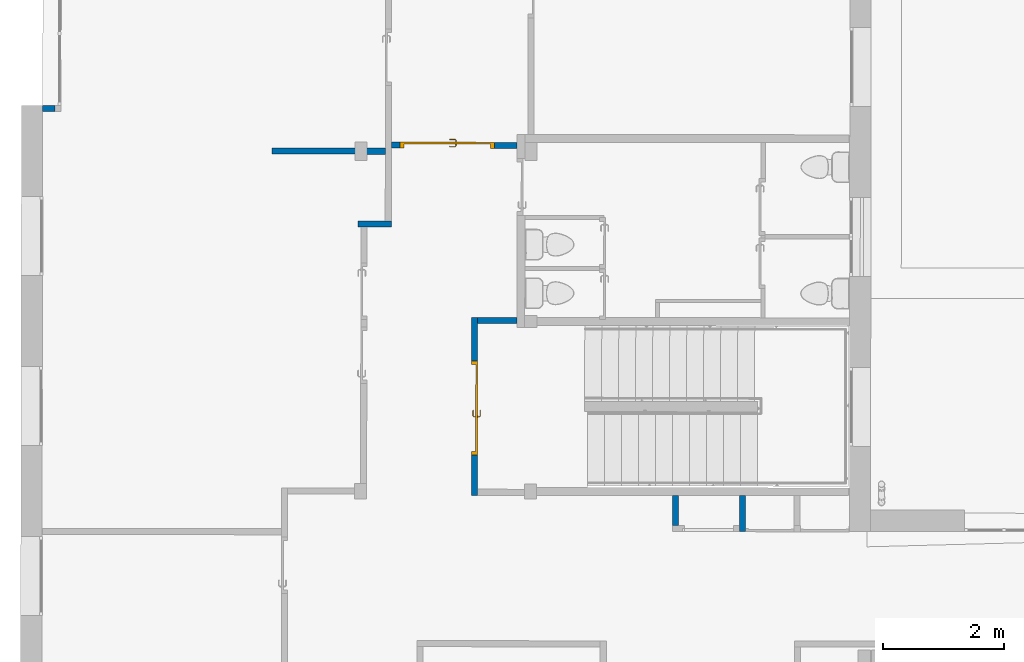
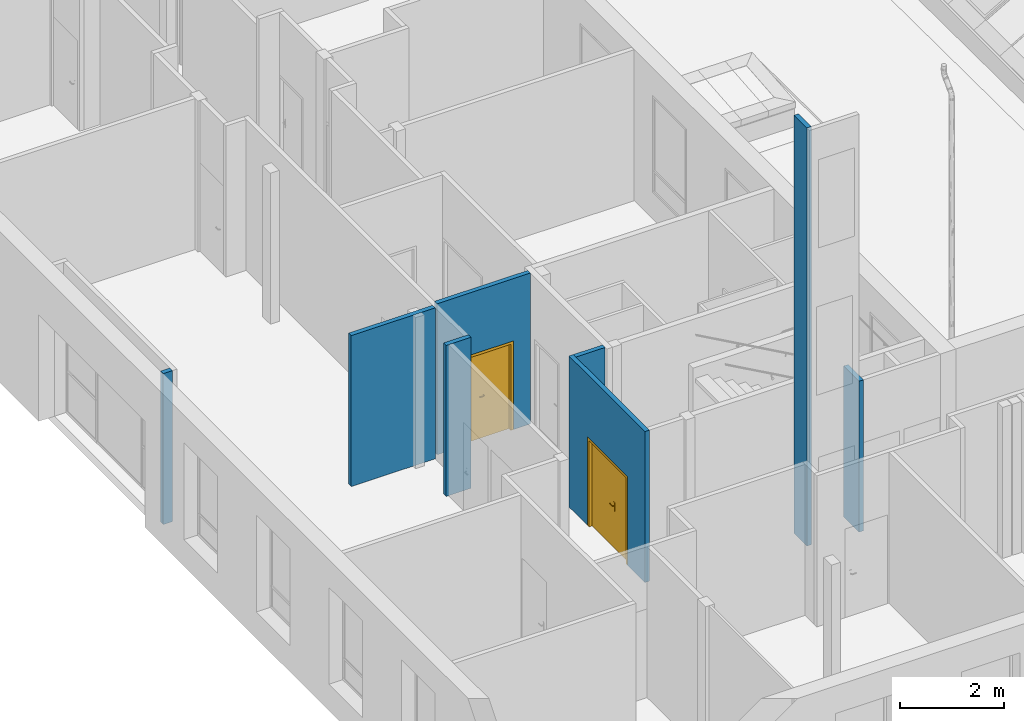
# One storey, part 50 of 101: 8 walls, 2 doors, 4 openings.
"""IFC2X3 building model written with IfcOpenShell, lengths in metres."""

from ifc_helpers import new_model, entity, si_unit, converted_unit, derived_unit, direction, frame, frame_2d, origin, place, context, subcontext, project, spatial, rectangle, extrude, faceted_brep, source, transform, mapped, material, material_list, layer, layer_set, layer_usage, type_object, type_shapes, element, fill, save


model = new_model("IFC2X3")

# Units and contexts
model_context = context("Model", 3, precision=1e-05, world=origin(), true_north=direction((6.123233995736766e-17, 1.0)))
body_context = subcontext(model_context, "Body", "Model", "MODEL_VIEW")
ifc_project = project(units=[si_unit("LENGTHUNIT", "METRE"), si_unit("AREAUNIT", "SQUARE_METRE"), converted_unit("PLANEANGLEUNIT", "DEGREE", entity("IfcPlaneAngleMeasure", 0.017453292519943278), si_unit("PLANEANGLEUNIT", "RADIAN"), dimensions=[0, 0, 0, 0, 0, 0, 0]), derived_unit("THERMALTRANSMITTANCEUNIT", [(si_unit("MASSUNIT", "GRAM", prefix="KILO"), 1), (si_unit("THERMODYNAMICTEMPERATUREUNIT", "KELVIN"), -1), (si_unit("TIMEUNIT", "SECOND"), -3)])], contexts=[model_context])

# Site, building, storey
site_placement = place(None, frame((1253.6752467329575, 2072.143113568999, 91.49999999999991), z_axis=(0.0, 0.0, 1.0), x_axis=(0.7237211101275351, 0.6900925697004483, 0.0)))
site = spatial("IfcSite", under=ifc_project, at=site_placement, Name="Surface", CompositionType="ELEMENT")
building_placement = place(site_placement, origin())
building = spatial("IfcBuilding", under=site, at=building_placement, CompositionType="ELEMENT")
storey_placement = place(building_placement, origin())
storey = spatial("IfcBuildingStorey", under=building, at=storey_placement, Name="0- Rdc", CompositionType="ELEMENT", Elevation=-5.764692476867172e-13)

# Wall, opening, door
ifc_material_1 = material(Name="OMD_Béton blanc")
ifc_layer_1 = layer(ifc_material_1, 0.1)
ifc_layer_set_1 = layer_set([ifc_layer_1], Name="Mur de base:MUR 10")
ifc_layer_usage_1 = layer_usage(ifc_layer_set_1, "AXIS2", "NEGATIVE", 0.05)
wall_type_1 = type_object("IfcWallType", Name="Mur de base:MUR 10", PredefinedType="STANDARD", material=ifc_layer_set_1)
wall_1_placement = place(storey_placement, frame((155.52189006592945, 5.777319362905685, 0.0), z_axis=(0.0, 0.0, 1.0), x_axis=(0.690983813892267, 0.7228702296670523, 0.0)))
wall_1 = element("IfcWallStandardCase", 1, at=wall_1_placement, inside=storey, type_object=wall_type_1, material=ifc_layer_usage_1, Name="Mur de base:MUR 10", ObjectType="Mur de base:MUR 10", context=body_context, shape_type="SweptSolid", body=[
    extrude(rectangle(XDim=2.929999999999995, YDim=0.10000000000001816, at=frame_2d((1.4649999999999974, 1.6653345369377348e-16), x_axis=(-1.0, 0.0))), origin(), (0.0, 0.0, 1.0), 3.5499999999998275),
])
opening_1_placement = place(wall_1_placement, frame((2.2150000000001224, 0.04999999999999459, 0.0)))
opening_1 = element("IfcOpeningElement", 2, at=opening_1_placement, cuts=wall_1, Name="OMD_Porte 2V tunnel:140x204:1", ObjectType="Opening", context=body_context, shape_type="SweptSolid", body=[
    extrude(rectangle(XDim=2.085, YDim=1.5499999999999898, at=frame_2d((1.0425, 0.7749999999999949), x_axis=(1.0, 0.0))), frame((0.0, 0.0, 0.0), z_axis=(0.0, -1.0, 0.0), x_axis=(0.0, 0.0, 1.0)), (0.0, 0.0, 1.0), 0.1),
])
ifc_material_2 = material(Name="<Unnamed>")
ifc_material_3 = material(Name="Porte - Poignée")
ifc_material_4 = material(Name="OMD_Bois")
ifc_material_list = material_list([ifc_material_2, ifc_material_3, ifc_material_4])
door_style = type_object("IfcDoorStyle", Name="OMD_Porte 2V tunnel:140x204", ConstructionType="NOTDEFINED", OperationType="NOTDEFINED", ParameterTakesPrecedence=False, Sizeable=False, material=ifc_material_list)
shared_shape = source(origin(), body_context, "Body", "Brep", [
    faceted_brep([(0.1450000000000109, 0.030000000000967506, 0.0), (0.6750000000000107, 0.030000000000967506, 0.0), (0.6750000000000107, 0.0, 0.0), (0.1450000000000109, 0.0, 0.0), (0.1450000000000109, 0.030000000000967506, 2.04), (0.1450000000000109, 0.0, 2.04), (0.6750000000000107, 0.0, 2.04), (0.6750000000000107, 0.030000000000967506, 2.04)], [[[0, 1, 2, 3]], [[4, 0, 3, 5]], [[5, 3, 2, 6]], [[6, 2, 1, 7]], [[7, 1, 0, 4]], [[4, 5, 6, 7]]]),
    faceted_brep([(0.7279747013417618, 0.035000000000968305, 1.0077804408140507), (0.7239999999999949, 0.035000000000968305, 1.0069999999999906), (0.7239999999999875, 0.035000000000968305, 0.9929999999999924), (0.7279747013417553, 0.035000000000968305, 0.9922195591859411), (0.7320252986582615, 0.035000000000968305, 0.9922195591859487), (0.7360000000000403, 0.035000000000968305, 0.9930000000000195), (0.7360000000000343, 0.035000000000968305, 1.0069999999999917), (0.7320252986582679, 0.035000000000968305, 1.007780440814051), (0.7360000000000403, 0.057485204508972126, 0.9930000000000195), (0.7360000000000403, 0.057485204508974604, 1.0069999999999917), (0.7320252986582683, 0.05913157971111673, 1.007780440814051), (0.7458389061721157, 0.07294518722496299, 1.007780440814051), (0.7441610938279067, 0.07699578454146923, 1.0077804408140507), (0.7279747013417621, 0.06080939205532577, 1.0077804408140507), (0.8356847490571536, 0.06646731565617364, 1.0077804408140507), (0.8385489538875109, 0.06933152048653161, 1.0077804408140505), (0.8308846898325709, 0.07699578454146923, 1.0077804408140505), (0.8292068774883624, 0.07294518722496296, 1.0077804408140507), (0.7239999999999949, 0.06245576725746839, 1.0069999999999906), (0.7239999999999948, 0.06245576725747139, 0.9929999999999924), (0.7279747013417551, 0.060809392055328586, 0.9922195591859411), (0.7441610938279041, 0.07699578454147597, 0.9922195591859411), (0.7458389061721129, 0.07294518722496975, 0.9922195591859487), (0.7320252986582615, 0.05913157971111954, 0.9922195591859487), (0.8385489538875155, 0.06933152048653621, 0.9922195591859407), (0.8356847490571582, 0.06646731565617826, 0.9922195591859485), (0.8292068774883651, 0.07294518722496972, 0.9922195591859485), (0.8308846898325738, 0.07699578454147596, 0.9922195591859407), (0.74748528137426, 0.06897048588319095, 0.9930000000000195), (0.7474852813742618, 0.06897048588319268, 1.0069999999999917), (0.7425147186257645, 0.08097048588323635, 1.0069999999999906), (0.7425147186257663, 0.08097048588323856, 0.9929999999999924), (0.787522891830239, 0.06897048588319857, 0.9930000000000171), (0.8275605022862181, 0.06897048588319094, 0.9930000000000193), (0.8275605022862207, 0.06897048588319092, 1.0069999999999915), (0.787522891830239, 0.06897048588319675, 1.0069999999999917), (0.7875228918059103, 0.07512492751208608, 1.0078781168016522), (0.8325310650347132, 0.0809704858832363, 1.0069999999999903), (0.7926005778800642, 0.08097048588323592, 1.0069999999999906), (0.8325310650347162, 0.08097048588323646, 0.9929999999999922), (0.7824452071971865, 0.08097048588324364, 0.9929999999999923), (0.7875228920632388, 0.07512492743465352, 0.9921218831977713), (0.8328742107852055, 0.06365677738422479, 0.9930000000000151), (0.8413594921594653, 0.0721420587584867, 0.99299999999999), (0.8413594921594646, 0.07214205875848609, 1.0069999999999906), (0.8328742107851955, 0.06365677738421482, 1.0069999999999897)], [[[0, 1, 2, 3, 4, 5, 6, 7]], [[6, 5, 8, 9]], [[9, 10, 7, 6]], [[10, 11, 12, 13, 0, 7]], [[14, 15, 16, 17]], [[13, 18, 1, 0]], [[2, 1, 18, 19]], [[19, 20, 3, 2]], [[20, 21, 22, 23, 4, 3]], [[24, 25, 26, 27]], [[23, 8, 5, 4]], [[9, 8, 28, 29]], [[29, 11, 10, 9]], [[12, 30, 18, 13]], [[19, 18, 30, 31]], [[31, 21, 20, 19]], [[22, 28, 8, 23]], [[29, 28, 32, 33, 34, 35]], [[11, 35, 36]], [[16, 37, 38]], [[30, 12, 38]], [[38, 12, 36]], [[36, 35, 17]], [[17, 16, 36]], [[35, 11, 29]], [[34, 17, 35]], [[11, 36, 12]], [[38, 36, 16]], [[31, 30, 38, 37, 39, 40]], [[40, 41, 21]], [[41, 40, 27]], [[21, 31, 40]], [[39, 27, 40]], [[41, 32, 22]], [[22, 21, 41]], [[26, 32, 41]], [[28, 22, 32]], [[32, 26, 33]], [[26, 41, 27]], [[42, 25, 24, 43, 44, 15, 14, 45]], [[34, 33, 42, 45]], [[45, 14, 17, 34]], [[15, 44, 37, 16]], [[39, 37, 44, 43]], [[43, 24, 27, 39]], [[25, 42, 33, 26]]]),
    faceted_brep([(0.7279747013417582, -0.004999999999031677, 1.0077804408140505), (0.7320252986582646, -0.004999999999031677, 1.007780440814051), (0.7360000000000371, -0.004999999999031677, 1.006999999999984), (0.7360000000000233, -0.004999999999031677, 0.9930000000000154), (0.7320252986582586, -0.004999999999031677, 0.9922195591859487), (0.7279747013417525, -0.004999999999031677, 0.992219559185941), (0.7239999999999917, -0.004999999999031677, 0.992999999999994), (0.7239999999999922, -0.004999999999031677, 1.0069999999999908), (0.723999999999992, -0.03265095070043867, 1.0069999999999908), (0.727974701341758, -0.031004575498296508, 1.0077804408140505), (0.7440235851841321, -0.047053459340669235, 1.0077804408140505), (0.745701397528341, -0.043002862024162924, 1.007780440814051), (0.7320252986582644, -0.029326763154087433, 1.007780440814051), (0.8385218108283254, -0.03938919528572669, 1.0077804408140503), (0.8356576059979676, -0.036524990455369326, 1.0077804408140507), (0.8291797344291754, -0.043002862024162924, 1.0077804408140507), (0.8308575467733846, -0.047053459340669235, 1.0077804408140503), (0.7360000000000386, -0.027680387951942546, 1.0069999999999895), (0.7360000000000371, -0.027680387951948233, 0.9930000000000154), (0.7320252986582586, -0.029326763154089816, 0.9922195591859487), (0.7457013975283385, -0.04300286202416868, 0.9922195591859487), (0.7440235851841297, -0.04705345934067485, 0.992219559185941), (0.7279747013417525, -0.031004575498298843, 0.992219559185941), (0.8356576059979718, -0.03652499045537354, 0.9922195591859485), (0.8385218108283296, -0.03938919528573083, 0.9922195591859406), (0.8308575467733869, -0.04705345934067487, 0.9922195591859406), (0.8291797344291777, -0.04300286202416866, 0.9922195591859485), (0.7239999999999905, -0.03265095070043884, 0.9929999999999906), (0.7423772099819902, -0.051028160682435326, 1.0069999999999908), (0.7473477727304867, -0.03902816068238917, 1.0069999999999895), (0.7473477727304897, -0.03902816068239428, 0.9930000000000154), (0.7423772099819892, -0.05102816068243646, 0.9929999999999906), (0.7823076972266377, -0.05102816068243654, 1.0069999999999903), (0.7874405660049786, -0.045182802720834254, 1.0078781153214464), (0.8325039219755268, -0.051028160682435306, 1.0069999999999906), (0.7874405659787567, -0.039028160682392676, 1.0069999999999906), (0.8275333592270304, -0.039028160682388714, 1.0069999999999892), (0.827533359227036, -0.03902816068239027, 0.9930000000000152), (0.7874405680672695, -0.03902816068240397, 0.9930000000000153), (0.7874405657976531, -0.04518280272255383, 0.9921218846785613), (0.832503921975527, -0.05102816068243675, 0.9929999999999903), (0.7925734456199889, -0.051028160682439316, 0.9929999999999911), (0.8328470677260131, -0.03371445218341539, 1.0069999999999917), (0.8413323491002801, -0.042199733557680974, 1.0069999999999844), (0.841332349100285, -0.04219973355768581, 0.9929999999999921), (0.8328470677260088, -0.03371445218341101, 0.9930000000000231)], [[[0, 1, 2, 3, 4, 5, 6, 7]], [[8, 9, 0, 7]], [[9, 10, 11, 12, 1, 0]], [[13, 14, 15, 16]], [[12, 17, 2, 1]], [[3, 2, 17, 18]], [[18, 19, 4, 3]], [[19, 20, 21, 22, 5, 4]], [[23, 24, 25, 26]], [[22, 27, 6, 5]], [[7, 6, 27, 8]], [[28, 10, 9, 8]], [[11, 29, 17, 12]], [[18, 17, 29, 30]], [[30, 20, 19, 18]], [[21, 31, 27, 22]], [[8, 27, 31, 28]], [[32, 33, 10]], [[33, 32, 16]], [[10, 28, 32]], [[34, 16, 32]], [[33, 35, 11]], [[11, 10, 33]], [[15, 35, 33]], [[29, 11, 35]], [[35, 15, 36]], [[15, 33, 16]], [[30, 29, 35, 36, 37, 38]], [[20, 38, 39]], [[25, 40, 41]], [[31, 21, 41]], [[41, 21, 39]], [[39, 38, 26]], [[26, 25, 39]], [[38, 20, 30]], [[37, 26, 38]], [[20, 39, 21]], [[41, 39, 25]], [[28, 31, 41, 40, 34, 32]], [[42, 14, 13, 43, 44, 24, 23, 45]], [[43, 13, 16, 34]], [[14, 42, 36, 15]], [[37, 36, 42, 45]], [[45, 23, 26, 37]], [[24, 44, 40, 25]], [[34, 40, 44, 43]]]),
    faceted_brep([(0.7403527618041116, 0.030000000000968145, 0.8660039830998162), (0.7500000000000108, 0.030000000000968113, 0.8700000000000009), (0.7500000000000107, 0.030000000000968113, 1.0800000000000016), (0.7403527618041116, 0.030000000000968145, 1.0839960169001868), (0.730000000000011, 0.03000000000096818, 1.0853589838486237), (0.7196472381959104, 0.03000000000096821, 1.0839960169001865), (0.7100000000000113, 0.030000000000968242, 1.0800000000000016), (0.7100000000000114, 0.030000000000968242, 0.8700000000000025), (0.7196472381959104, 0.03000000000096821, 0.866003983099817), (0.7300000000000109, 0.03000000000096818, 0.8646410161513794), (0.7403527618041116, 0.035000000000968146, 1.0839960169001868), (0.7500000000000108, 0.03500000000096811, 1.0800000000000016), (0.7500000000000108, 0.03500000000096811, 0.8700000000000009), (0.7403527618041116, 0.035000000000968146, 0.8660039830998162), (0.7300000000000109, 0.03500000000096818, 0.8646410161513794), (0.7196472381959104, 0.035000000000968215, 0.866003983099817), (0.7100000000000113, 0.03500000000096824, 0.8700000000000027), (0.7100000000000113, 0.03500000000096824, 1.0800000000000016), (0.7196472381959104, 0.035000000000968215, 1.0839960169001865), (0.730000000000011, 0.03500000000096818, 1.0853589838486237)], [[[0, 1, 2, 3, 4, 5, 6, 7, 8, 9]], [[10, 11, 12, 13, 14, 15, 16, 17, 18, 19]], [[11, 10, 3, 2]], [[3, 10, 19, 4]], [[19, 18, 5, 4]], [[18, 17, 6, 5]], [[7, 6, 17, 16]], [[16, 15, 8, 7]], [[8, 15, 14, 9]], [[14, 13, 0, 9]], [[13, 12, 1, 0]], [[2, 1, 12, 11]]]),
    faceted_brep([(0.7403527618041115, -0.004999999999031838, 0.8660039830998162), (0.7500000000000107, -0.004999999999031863, 0.8700000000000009), (0.7500000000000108, -0.004999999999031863, 1.0800000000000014), (0.7403527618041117, -0.004999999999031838, 1.0839960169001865), (0.7300000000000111, -0.004999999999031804, 1.0853589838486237), (0.7196472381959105, -0.00499999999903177, 1.0839960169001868), (0.7100000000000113, -0.0049999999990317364, 1.0800000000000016), (0.7100000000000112, -0.0049999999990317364, 0.8700000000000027), (0.71964723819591, -0.00499999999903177, 0.8660039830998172), (0.7300000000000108, -0.004999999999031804, 0.8646410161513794), (0.7403527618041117, 0.0, 1.0839960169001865), (0.7500000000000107, 0.0, 1.0800000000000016), (0.7500000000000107, 0.0, 0.8700000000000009), (0.7403527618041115, 0.0, 0.8660039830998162), (0.7300000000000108, 0.0, 0.8646410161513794), (0.71964723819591, 0.0, 0.8660039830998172), (0.7100000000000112, 0.0, 0.8700000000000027), (0.7100000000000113, 0.0, 1.0800000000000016), (0.7196472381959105, 0.0, 1.0839960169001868), (0.7300000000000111, 0.0, 1.0853589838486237)], [[[0, 1, 2, 3, 4, 5, 6, 7, 8, 9]], [[10, 11, 12, 13, 14, 15, 16, 17, 18, 19]], [[16, 15, 8, 7]], [[8, 15, 14, 9]], [[14, 13, 0, 9]], [[13, 12, 1, 0]], [[2, 1, 12, 11]], [[11, 10, 3, 2]], [[3, 10, 19, 4]], [[19, 18, 5, 4]], [[18, 17, 6, 5]], [[7, 6, 17, 16]]]),
    faceted_brep([(0.6750000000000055, 0.030000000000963, 0.0), (1.6050000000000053, 0.0300000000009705, 0.0), (1.6050000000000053, 0.0, 0.0), (0.675000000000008, 0.0, 0.0), (0.6750000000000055, 0.030000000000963, 2.04), (0.675000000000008, 0.0, 2.04), (1.6050000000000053, 0.0, 2.04), (1.6050000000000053, 0.0300000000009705, 2.04)], [[[0, 1, 2, 3]], [[4, 0, 3, 5]], [[5, 3, 2, 6]], [[6, 2, 1, 7]], [[7, 1, 0, 4]], [[4, 5, 6, 7]]]),
    faceted_brep([(0.10000000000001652, 0.0, 0.0), (0.10000000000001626, 0.10000000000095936, 0.0), (0.1600000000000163, 0.10000000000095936, 0.0), (0.16000000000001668, 0.030000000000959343, 0.0), (0.14500000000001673, 0.0300000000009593, 0.0), (0.14500000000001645, 0.0, 0.0), (0.14500000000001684, 0.0, 2.0399999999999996), (1.605000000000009, 0.0, 2.0399999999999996), (1.6050000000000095, 0.0, 0.0), (1.6500000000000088, 0.0, 0.0), (1.6500000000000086, 0.0, 2.0849999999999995), (0.10000000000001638, 0.0, 2.085), (0.1450000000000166, 0.0300000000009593, 2.0399999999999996), (0.16000000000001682, 0.030000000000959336, 2.0249999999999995), (1.5900000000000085, 0.03000000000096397, 2.0249999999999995), (1.5900000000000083, 0.03000000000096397, 0.0), (1.6050000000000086, 0.030000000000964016, 0.0), (1.6050000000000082, 0.030000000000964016, 2.039999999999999), (0.16000000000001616, 0.10000000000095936, 2.0249999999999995), (0.10000000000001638, 0.10000000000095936, 2.0849999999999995), (1.6500000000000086, 0.10000000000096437, 2.0849999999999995), (1.6500000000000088, 0.10000000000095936, 0.0), (1.5900000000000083, 0.10000000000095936, 0.0), (1.5900000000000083, 0.10000000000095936, 2.0249999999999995)], [[[0, 1, 2, 3, 4, 5]], [[5, 6, 7, 8, 9, 10, 11, 0]], [[4, 12, 6, 5]], [[3, 13, 14, 15, 16, 17, 12, 4]], [[2, 18, 13, 3]], [[1, 19, 20, 21, 22, 23, 18, 2]], [[0, 11, 19, 1]], [[10, 9, 21, 20]], [[9, 8, 16, 15, 22, 21]], [[17, 16, 8, 7]], [[23, 22, 15, 14]], [[12, 17, 7, 6]], [[18, 23, 14, 13]], [[11, 10, 20, 19]]]),
])
type_shapes(door_style, [shared_shape])
door_1_placement = place(opening_1_placement, frame((-1.6500000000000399, -0.09999999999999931, 0.0)))
door_1 = element("IfcDoor", 3, at=door_1_placement, inside=storey, type_object=door_style, material=ifc_material_list, Name="OMD_Porte 2V tunnel:140x204", ObjectType="OMD_Porte 2V tunnel:140x204", OverallHeight=2.085, OverallWidth=1.5499999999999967, context=body_context, shape_type="MappedRepresentation", body=[
    mapped(shared_shape, transform((0.0, 0.0, 0.0), scale=1.0)),
])
fill(opening_1, door_1)

# Wall
ifc_layer_usage_2 = layer_usage(ifc_layer_set_1, "AXIS2", "NEGATIVE", 0.05)
wall_2_placement = place(storey_placement, frame((157.5480669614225, 7.824636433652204, 0.0), z_axis=(0.0, 0.0, 1.0), x_axis=(0.7228702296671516, -0.690983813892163, 0.0)))
element("IfcWallStandardCase", 4, at=wall_2_placement, inside=storey, type_object=wall_type_1, material=ifc_layer_usage_2, Name="Mur de base:MUR 10", ObjectType="Mur de base:MUR 10", context=body_context, shape_type="SweptSolid", body=[
    extrude(rectangle(XDim=0.6453433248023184, YDim=0.10000000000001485, at=frame_2d((0.3226716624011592, -1.5890067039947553e-15), x_axis=(-1.0, 0.0))), origin(), (0.0, 0.0, 1.0), 3.5499999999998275),
])

# Wall, opening
ifc_layer_usage_3 = layer_usage(ifc_layer_set_1, "AXIS2", "NEGATIVE", 0.05)
wall_3_placement = place(storey_placement, frame((158.3024749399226, 2.296280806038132, 0.0), z_axis=(0.0, 0.0, 1.0), x_axis=(0.6909838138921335, 0.72287022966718, 0.0)))
wall_3 = element("IfcWallStandardCase", 5, at=wall_3_placement, inside=storey, type_object=wall_type_1, material=ifc_layer_usage_3, Name="Mur de base:MUR 10", ObjectType="Mur de base:MUR 10", context=body_context, shape_type="SweptSolid", body=[
    extrude(rectangle(XDim=0.5950000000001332, YDim=0.10000000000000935, at=frame_2d((0.2975000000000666, -1.5161483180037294e-15), x_axis=(-1.0, 0.0))), origin(), (0.0, 0.0, 1.0), 3.5499999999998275),
])
opening_2_placement = place(wall_3_placement, frame((-111.04436091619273, 112.84545354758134, 0.0)))
element("IfcOpeningElement", 6, at=opening_2_placement, cuts=wall_3, Name="Mur de base:MUR 10", ObjectType="Opening", context=body_context, shape_type="SweptSolid", body=[
    extrude(rectangle(XDim=2.0749999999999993, YDim=0.09999999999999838, at=frame_2d((6.751543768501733e-15, -1.1102230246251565e-16), x_axis=(0.0, 1.0))), frame((111.09436091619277, -113.69545354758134, 1.0374999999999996), z_axis=(0.0, 1.0, 0.0), x_axis=(1.0, 0.0, 0.0)), (0.0, 0.0, 1.0), 0.7999999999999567),
])

# Walls
ifc_layer_usage_4 = layer_usage(ifc_layer_set_1, "AXIS2", "NEGATIVE", 0.05)
wall_4_placement = place(storey_placement, frame((157.6134344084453, 9.95480045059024, 0.0), z_axis=(0.0, 0.0, 1.0), x_axis=(-0.7228702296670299, 0.6909838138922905, 0.0)))
element("IfcWallStandardCase", 7, at=wall_4_placement, inside=storey, type_object=wall_type_1, material=ifc_layer_usage_4, Name="Mur de base:MUR 10", ObjectType="Mur de base:MUR 10", context=body_context, shape_type="SweptSolid", body=[
    extrude(rectangle(XDim=0.5500000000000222, YDim=0.10000000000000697, at=frame_2d((0.2750000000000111, -1.4606371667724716e-15), x_axis=(-1.0, 0.0))), origin(), (0.0, 0.0, 1.0), 3.5499999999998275),
])
ifc_layer_usage_5 = layer_usage(ifc_layer_set_1, "AXIS2", "NEGATIVE", 0.05)
wall_5_placement = place(storey_placement, frame((158.37032796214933, 10.891343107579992, 0.0), z_axis=(0.0, 0.0, 1.0), x_axis=(-0.7228702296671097, 0.690983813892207, 0.0)))
element("IfcWallStandardCase", 8, at=wall_5_placement, inside=storey, type_object=wall_type_1, material=ifc_layer_usage_5, Name="Mur de base:MUR 10", ObjectType="Mur de base:MUR 10", context=body_context, shape_type="SweptSolid", body=[
    extrude(rectangle(XDim=1.870000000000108, YDim=0.10000000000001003, at=frame_2d((0.935000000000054, 3.122502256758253e-16), x_axis=(-1.0, 0.0))), origin(), (0.0, 0.0, 1.0), 3.5499999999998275),
])

# Wall, opening, door
ifc_layer_usage_6 = layer_usage(ifc_layer_set_1, "AXIS2", "NEGATIVE", 0.05)
wall_6_placement = place(storey_placement, frame((160.0080547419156, 9.464195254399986, 0.0), z_axis=(0.0, 0.0, 1.0), x_axis=(-0.7228702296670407, 0.6909838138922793, 0.0)))
wall_6 = element("IfcWallStandardCase", 9, at=wall_6_placement, inside=storey, type_object=wall_type_1, material=ifc_layer_usage_6, Name="Mur de base:MUR 10", ObjectType="Mur de base:MUR 10", context=body_context, shape_type="SweptSolid", body=[
    extrude(rectangle(XDim=2.0700000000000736, YDim=0.10000000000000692, at=frame_2d((1.0350000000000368, -1.942890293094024e-16), x_axis=(-1.0, 0.0))), origin(), (0.0, 0.0, 1.0), 3.5499999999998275),
])
opening_3_placement = place(wall_6_placement, frame((1.9250000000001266, 0.05000000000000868, 0.0)))
opening_3 = element("IfcOpeningElement", 10, at=opening_3_placement, cuts=wall_6, Name="OMD_Porte 2V tunnel:140x204:1", ObjectType="Opening", context=body_context, shape_type="SweptSolid", body=[
    extrude(rectangle(XDim=2.085, YDim=1.5499999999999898, at=frame_2d((1.0425, 0.7749999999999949), x_axis=(1.0, 0.0))), frame((0.0, 0.0, 0.0), z_axis=(0.0, -1.0, 0.0), x_axis=(0.0, 0.0, 1.0)), (0.0, 0.0, 1.0), 0.09999999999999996),
])
door_2_placement = place(opening_3_placement, frame((-1.6500000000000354, -0.10000000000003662, 0.0)))
door_2 = element("IfcDoor", 11, at=door_2_placement, inside=storey, type_object=door_style, material=ifc_material_list, Name="OMD_Porte 2V tunnel:140x204", ObjectType="OMD_Porte 2V tunnel:140x204", OverallHeight=2.085, OverallWidth=1.5499999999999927, context=body_context, shape_type="MappedRepresentation", body=[
    mapped(shared_shape, transform((0.0, 0.0, 0.0), scale=1.0)),
])
fill(opening_3, door_2)

# Wall
ifc_layer_usage_7 = layer_usage(ifc_layer_set_1, "AXIS2", "NEGATIVE", 0.05)
wall_7_placement = place(storey_placement, frame((154.7734437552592, 15.297927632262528, 0.0), z_axis=(0.0, 0.0, 1.0), x_axis=(0.7228702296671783, -0.6909838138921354, 0.0)))
element("IfcWallStandardCase", 12, at=wall_7_placement, inside=storey, type_object=wall_type_1, material=ifc_layer_usage_7, Name="Mur de base:MUR 10", ObjectType="Mur de base:MUR 10", context=body_context, shape_type="SweptSolid", body=[
    extrude(rectangle(XDim=0.20495909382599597, YDim=0.09999999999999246, at=frame_2d((0.10247954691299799, 1.5265566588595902e-16), x_axis=(-1.0, 0.0))), origin(), (0.0, 0.0, 1.0), 3.5499999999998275),
])

# Wall, opening
ifc_material_5 = material(Name="OMD_Cloison 100mm")
ifc_layer_2 = layer(ifc_material_5, 0.1)
ifc_layer_set_2 = layer_set([ifc_layer_2], Name="Mur de base:Cloison 100mm")
ifc_layer_usage_8 = layer_usage(ifc_layer_set_2, "AXIS2", "NEGATIVE", 0.05)
wall_type_2 = type_object("IfcWallType", Name="Mur de base:Cloison 100mm", PredefinedType="STANDARD", material=ifc_layer_set_2)
wall_8_placement = place(storey_placement, frame((157.57641606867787, 3.128650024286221, 0.0), z_axis=(0.0, 0.0, 1.0), x_axis=(0.6909838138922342, 0.7228702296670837, 0.0)))
wall_8 = element("IfcWallStandardCase", 13, at=wall_8_placement, inside=storey, type_object=wall_type_2, material=ifc_layer_usage_8, Name="Mur de base:Cloison 100mm", ObjectType="Mur de base:Cloison 100mm", context=body_context, shape_type="SweptSolid", body=[
    extrude(rectangle(XDim=0.4950000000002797, YDim=0.10000000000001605, at=frame_2d((0.24750000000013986, -2.393918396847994e-16), x_axis=(-1.0, 0.0))), origin(), (0.0, 0.0, 1.0), 9.829999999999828),
])
opening_4_placement = place(wall_8_placement, frame((-111.14436091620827, 111.74545354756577, 0.0)))
element("IfcOpeningElement", 14, at=opening_4_placement, cuts=wall_8, Name="Mur de base:Cloison 100mm", ObjectType="Opening", context=body_context, shape_type="SweptSolid", body=[
    extrude(rectangle(XDim=2.0749999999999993, YDim=0.09999999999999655, at=frame_2d((1.8332557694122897e-14, 1.1102230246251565e-16), x_axis=(0.0, 1.0))), frame((111.09436091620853, -112.69545354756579, 1.0374999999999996), z_axis=(0.0, 1.0, 0.0), x_axis=(-1.0, 0.0, 0.0)), (0.0, 0.0, 1.0), 0.800000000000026),
])

save(model, "model.ifc")
